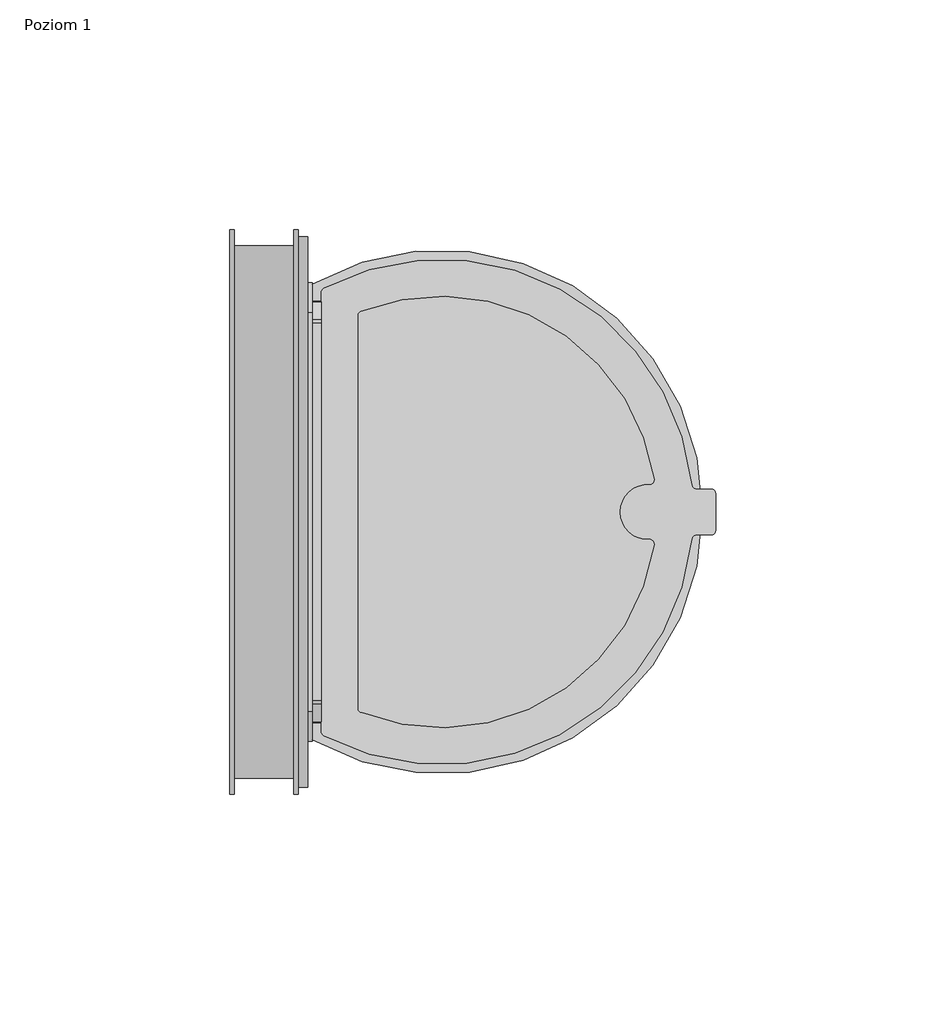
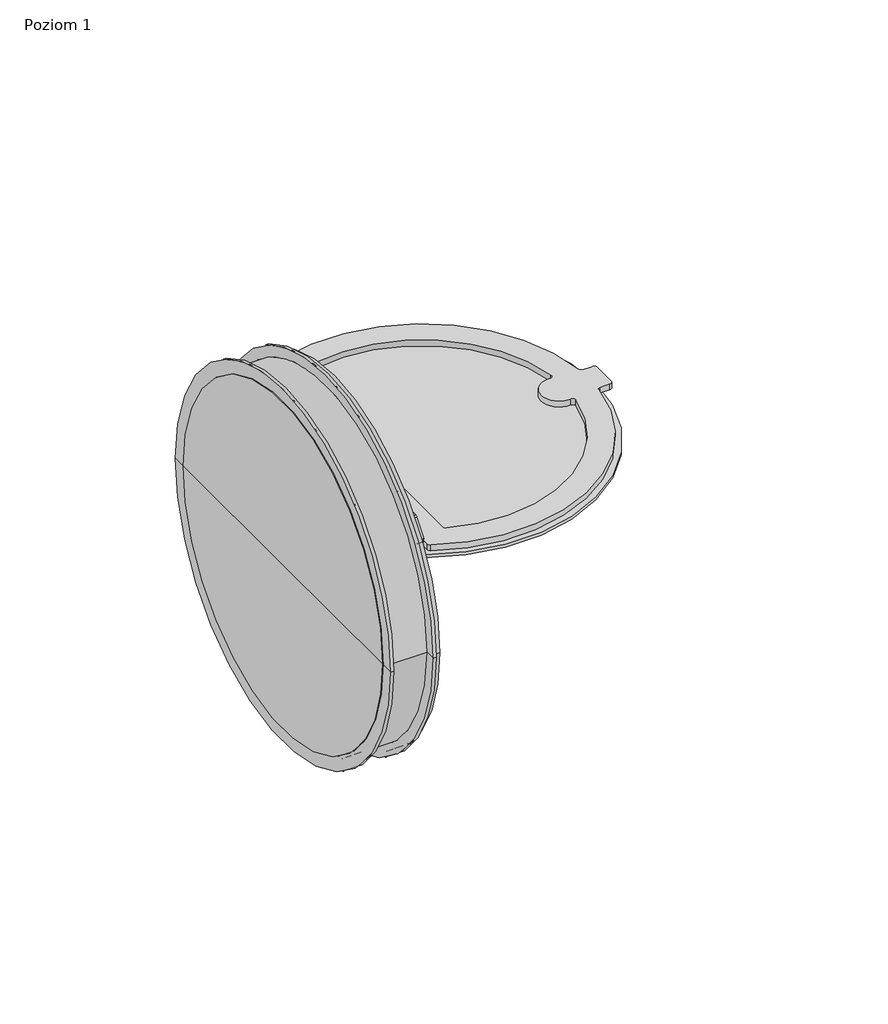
# One storey: 1 damper.
"""IFC4 building model written with IfcOpenShell, lengths in millimetres."""

from ifc_helpers import new_model, si_unit, origin, place, context, project, spatial, transform, mapped, element, save
from components import damper_125_c1b41ca4

model = new_model("IFC4")

# Units and contexts
model_context = context("Model", 3, world=origin())
ifc_project = project(units=[si_unit("LENGTHUNIT", "METRE", prefix="MILLI")], contexts=[model_context])

# Site, building, storey
site = spatial("IfcSite", under=ifc_project)
building = spatial("IfcBuilding", under=site)
storey = spatial("IfcBuildingStorey", under=building, Name="Poziom 1", Elevation=0.0)

# Damper
placement = place(None, origin())
damper_125_shape = damper_125_c1b41ca4(model_context)
element("IfcDamper", 1, ObjectType="VE-Przepustnica_Zwrotna-ParaForma-Harmann-FROGG : 125", at=placement, inside=storey, context=model_context, shape_type="MappedRepresentation", body=[
    mapped(damper_125_shape, transform((0.0, 0.0, 0.0), x_axis=(1.0, 0.0, 0.0), y_axis=(0.0, 1.0, 0.0), z_axis=(0.0, 0.0, 1.0))),
])

save(model, "model.ifc")
